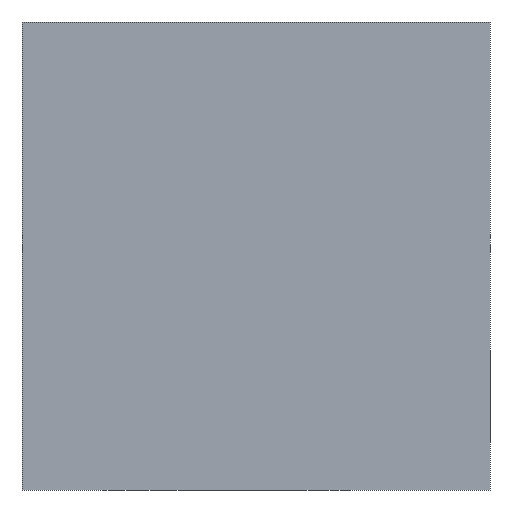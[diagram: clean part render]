
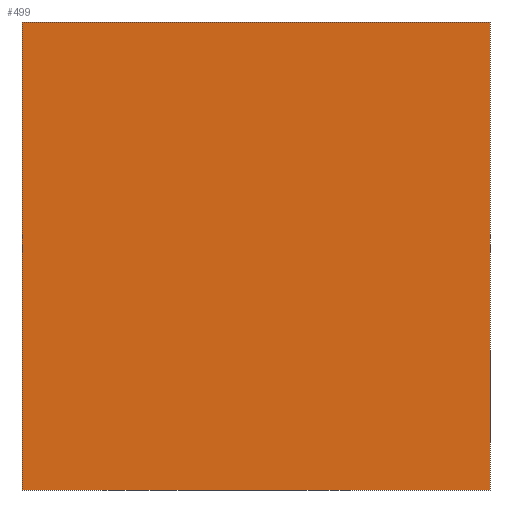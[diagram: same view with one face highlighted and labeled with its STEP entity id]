
A CAD part, front view. The second image highlights one B-rep face of the part: STEP entity #499.
In plain terms, the highlighted planar face has unit normal (0, -1, 0).
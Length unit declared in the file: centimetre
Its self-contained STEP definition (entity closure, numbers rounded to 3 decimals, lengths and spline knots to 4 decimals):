
#10 = VECTOR ( 'NONE', #193, 100. ) ;
#39 = LINE ( 'NONE', #691, #138 ) ;
#61 = AXIS2_PLACEMENT_3D ( 'NONE', #384, #92, #201 ) ;
#92 = DIRECTION ( 'NONE',  ( 0., 1., 0. ) ) ;
#118 = VERTEX_POINT ( 'NONE', #349 ) ;
#138 = VECTOR ( 'NONE', #429, 100. ) ;
#173 = VECTOR ( 'NONE', #568, 100. ) ;
#193 = DIRECTION ( 'NONE',  ( 0., 0., -1. ) ) ;
#195 = VERTEX_POINT ( 'NONE', #359 ) ;
#201 = DIRECTION ( 'NONE',  ( 0., 0., 1. ) ) ;
#211 = EDGE_CURVE ( 'NONE', #195, #645, #615, .T. ) ;
#230 = ORIENTED_EDGE ( 'NONE', *, *, #211, .F. ) ;
#253 = LINE ( 'NONE', #490, #365 ) ;
#301 = EDGE_CURVE ( 'NONE', #118, #549, #253, .T. ) ;
#329 = DIRECTION ( 'NONE',  ( 1., 0., 0. ) ) ;
#341 = ORIENTED_EDGE ( 'NONE', *, *, #301, .T. ) ;
#349 = CARTESIAN_POINT ( 'NONE',  ( 0., 0., 0. ) ) ;
#358 = CARTESIAN_POINT ( 'NONE',  ( 1000., 0., 1000. ) ) ;
#359 = CARTESIAN_POINT ( 'NONE',  ( 0., 0., 1000. ) ) ;
#365 = VECTOR ( 'NONE', #329, 100. ) ;
#384 = CARTESIAN_POINT ( 'NONE',  ( 0., 0., 1000. ) ) ;
#389 = CARTESIAN_POINT ( 'NONE',  ( 0., 0., 1000. ) ) ;
#411 = CARTESIAN_POINT ( 'NONE',  ( 0., 0., 1000. ) ) ;
#429 = DIRECTION ( 'NONE',  ( 0., 0., -1. ) ) ;
#431 = ORIENTED_EDGE ( 'NONE', *, *, #464, .T. ) ;
#464 = EDGE_CURVE ( 'NONE', #195, #118, #528, .T. ) ;
#470 = CARTESIAN_POINT ( 'NONE',  ( 1000., 0., 0. ) ) ;
#490 = CARTESIAN_POINT ( 'NONE',  ( 0., 0., 0. ) ) ;
#499 = ADVANCED_FACE ( 'NONE', ( #594 ), #539, .F. ) ;
#509 = EDGE_CURVE ( 'NONE', #645, #549, #39, .T. ) ;
#528 = LINE ( 'NONE', #389, #10 ) ;
#539 = PLANE ( 'NONE',  #61 ) ;
#549 = VERTEX_POINT ( 'NONE', #470 ) ;
#568 = DIRECTION ( 'NONE',  ( 1., 0., 0. ) ) ;
#594 = FACE_OUTER_BOUND ( 'NONE', #680, .T. ) ;
#615 = LINE ( 'NONE', #411, #173 ) ;
#645 = VERTEX_POINT ( 'NONE', #358 ) ;
#673 = ORIENTED_EDGE ( 'NONE', *, *, #509, .F. ) ;
#680 = EDGE_LOOP ( 'NONE', ( #341, #673, #230, #431 ) ) ;
#691 = CARTESIAN_POINT ( 'NONE',  ( 1000., 0., 1000. ) ) ;
